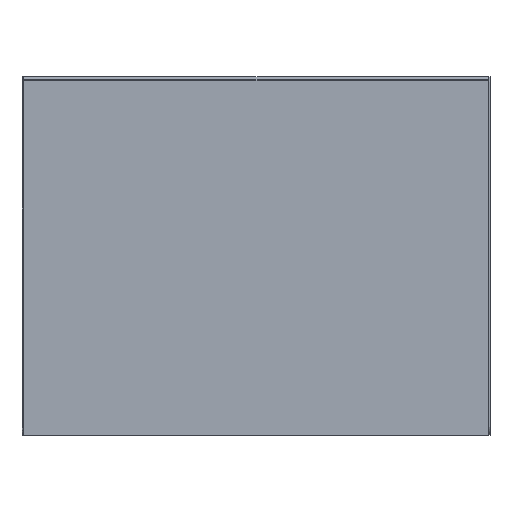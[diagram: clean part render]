
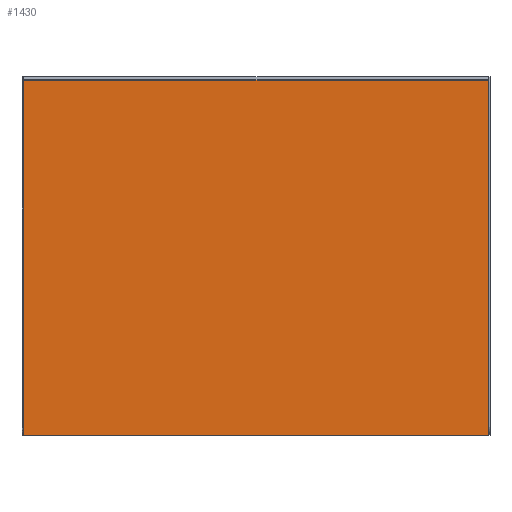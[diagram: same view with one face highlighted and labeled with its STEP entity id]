
A CAD part, front view. The second image highlights one B-rep face of the part: STEP entity #1430.
In plain terms, the highlighted planar face has unit normal (0, -1, 0).
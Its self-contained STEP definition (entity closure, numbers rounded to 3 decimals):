
#57 = LINE ( 'NONE', #1645, #176 ) ;
#160 = CARTESIAN_POINT ( 'NONE',  ( 647., -17.5, 497. ) ) ;
#176 = VECTOR ( 'NONE', #1800, 1000. ) ;
#215 = CARTESIAN_POINT ( 'NONE',  ( -647., -17.5, 497. ) ) ;
#443 = CARTESIAN_POINT ( 'NONE',  ( 647., -17.5, 497. ) ) ;
#453 = DIRECTION ( 'NONE',  ( 0., 0., -1. ) ) ;
#470 = CARTESIAN_POINT ( 'NONE',  ( -647., -17.5, 497. ) ) ;
#472 = FACE_OUTER_BOUND ( 'NONE', #696, .T. ) ;
#562 = EDGE_CURVE ( 'NONE', #1171, #1433, #897, .T. ) ;
#696 = EDGE_LOOP ( 'NONE', ( #801, #1021, #758, #1593 ) ) ;
#735 = LINE ( 'NONE', #443, #1441 ) ;
#758 = ORIENTED_EDGE ( 'NONE', *, *, #1659, .F. ) ;
#801 = ORIENTED_EDGE ( 'NONE', *, *, #1281, .F. ) ;
#805 = AXIS2_PLACEMENT_3D ( 'NONE', #1767, #1162, #453 ) ;
#859 = VECTOR ( 'NONE', #1784, 1000. ) ;
#897 = LINE ( 'NONE', #470, #859 ) ;
#1009 = CARTESIAN_POINT ( 'NONE',  ( -647., -17.5, -497. ) ) ;
#1021 = ORIENTED_EDGE ( 'NONE', *, *, #562, .F. ) ;
#1044 = PLANE ( 'NONE',  #805 ) ;
#1162 = DIRECTION ( 'NONE',  ( 0., -1., 0. ) ) ;
#1171 = VERTEX_POINT ( 'NONE', #1707 ) ;
#1260 = DIRECTION ( 'NONE',  ( 0., 0., 1. ) ) ;
#1281 = EDGE_CURVE ( 'NONE', #1433, #1746, #735, .T. ) ;
#1411 = CARTESIAN_POINT ( 'NONE',  ( 647., -17.5, -497. ) ) ;
#1430 = ADVANCED_FACE ( 'NONE', ( #472 ), #1044, .T. ) ;
#1433 = VERTEX_POINT ( 'NONE', #160 ) ;
#1441 = VECTOR ( 'NONE', #1465, 1000. ) ;
#1465 = DIRECTION ( 'NONE',  ( 0., 0., -1. ) ) ;
#1510 = LINE ( 'NONE', #215, #1665 ) ;
#1517 = EDGE_CURVE ( 'NONE', #1746, #1693, #57, .T. ) ;
#1593 = ORIENTED_EDGE ( 'NONE', *, *, #1517, .F. ) ;
#1645 = CARTESIAN_POINT ( 'NONE',  ( -647., -17.5, -497. ) ) ;
#1659 = EDGE_CURVE ( 'NONE', #1693, #1171, #1510, .T. ) ;
#1665 = VECTOR ( 'NONE', #1260, 1000. ) ;
#1693 = VERTEX_POINT ( 'NONE', #1009 ) ;
#1707 = CARTESIAN_POINT ( 'NONE',  ( -647., -17.5, 497. ) ) ;
#1746 = VERTEX_POINT ( 'NONE', #1411 ) ;
#1767 = CARTESIAN_POINT ( 'NONE',  ( 0., -17.5, 0. ) ) ;
#1784 = DIRECTION ( 'NONE',  ( 1., 0., 0. ) ) ;
#1800 = DIRECTION ( 'NONE',  ( -1., 0., 0. ) ) ;
